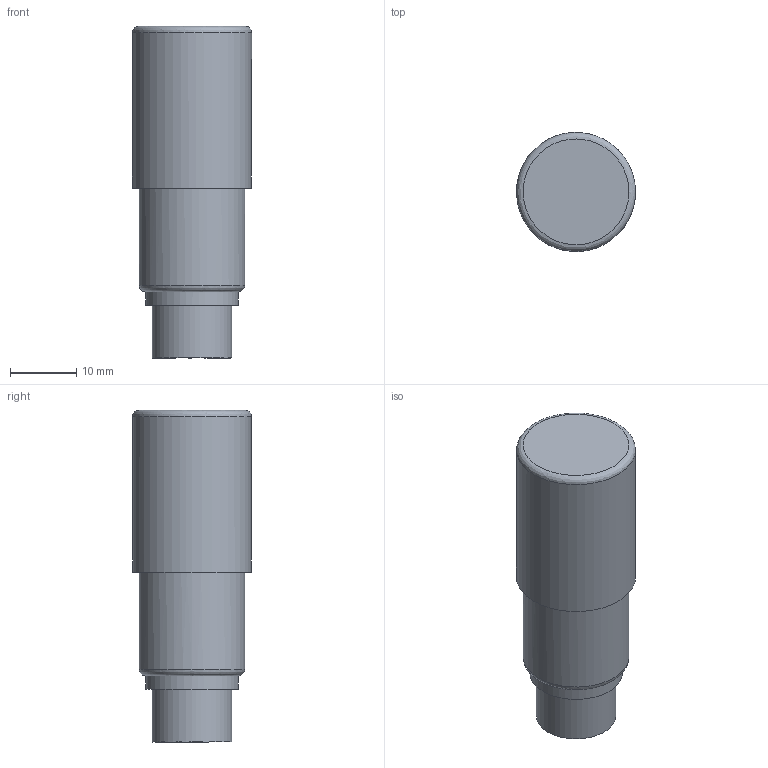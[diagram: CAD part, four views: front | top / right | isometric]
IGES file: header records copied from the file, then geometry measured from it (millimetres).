
Global section: file name: 153-00582_UT 18; native system: Autodesk Inventor 2018; preprocessor: unknown; author: ss; date: 20190116.104045; units: millimetre
Bounding box: 18 x 17.97 x 50.2 mm (x, y, z)
Volume: 10590.3 mm3; surface area: 3029.3 mm2
Topology: 1 solids, 1 shells, 10 faces, 24 edges, 18 vertices
Faces by surface type: bspline 10
